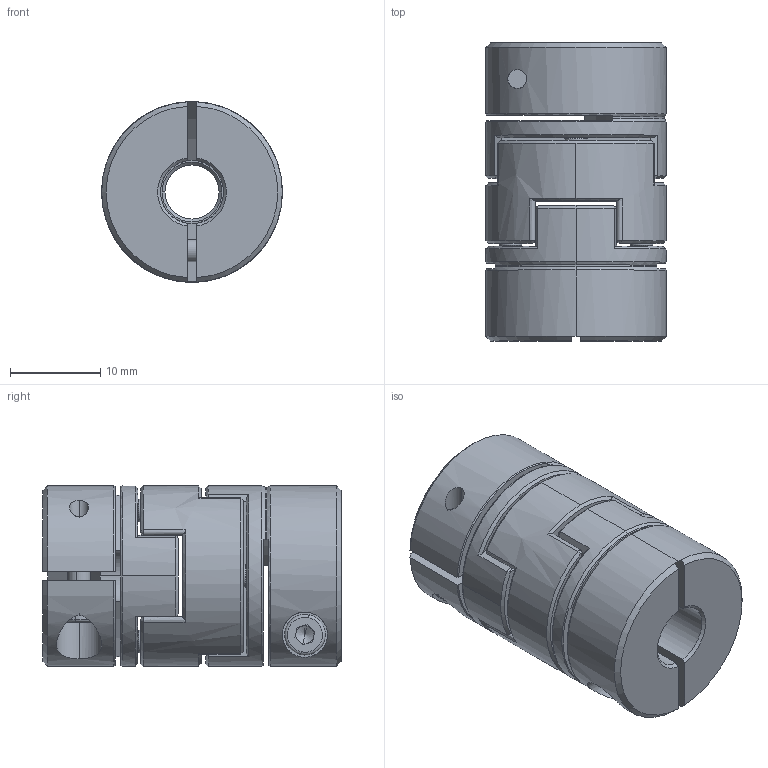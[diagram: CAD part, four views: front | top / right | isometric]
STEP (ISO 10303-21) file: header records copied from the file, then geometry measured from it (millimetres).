
FILE_DESCRIPTION (( 'STEP AP203' ), '1' );
FILE_NAME ('LZ-B-D20L33-6-7.STEP', '2021-10-29T05:37:43', ( '' ), ( '' ), 'SwSTEP 2.0', 'SolidWorks 2018', '' );
FILE_SCHEMA (( 'CONFIG_CONTROL_DESIGN' ));
Length unit declared in the file: millimetre
Products named in the file (1): LZ-B-D20L33-6-7
Bounding box: 20 x 33 x 20 mm (x, y, z)
Volume: 8424.9 mm3; surface area: 6110.5 mm2
Topology: 3 solids, 3 shells, 248 faces, 632 edges, 400 vertices
Faces by surface type: plane 112, cylinder 64, cone 42, bspline 26, torus 4
Entity records: 10263 total; most frequent: CARTESIAN_POINT 4455, ORIENTED_EDGE 1256, DIRECTION 1116, EDGE_CURVE 628, AXIS2_PLACEMENT_3D 431, VERTEX_POINT 400, EDGE_LOOP 276, LINE 254
